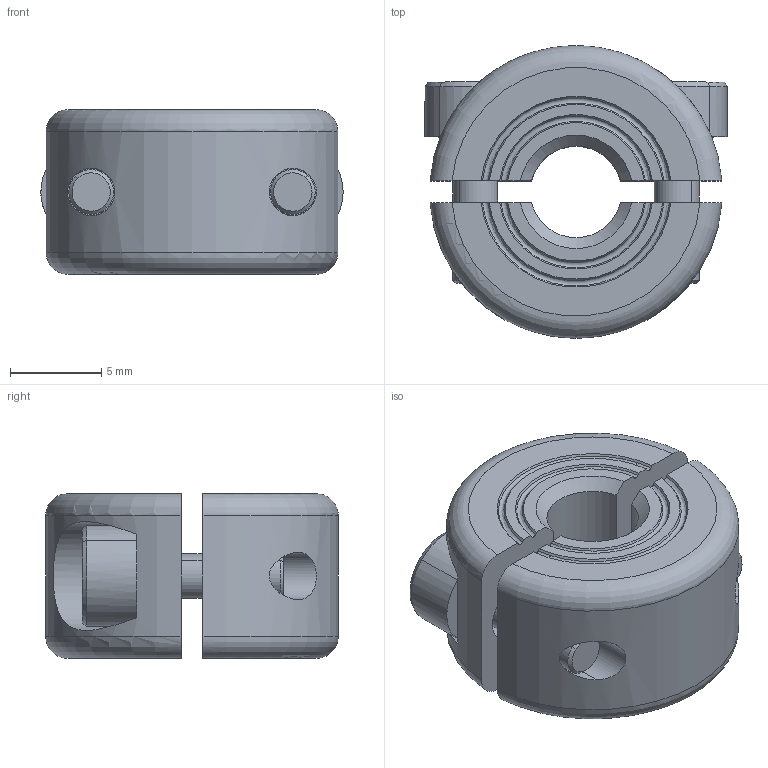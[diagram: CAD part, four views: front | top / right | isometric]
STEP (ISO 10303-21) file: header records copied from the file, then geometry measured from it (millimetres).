
FILE_DESCRIPTION((''),'2;1');
FILE_NAME('MSP-5-X','2016-09-08T',('SYSTEM'),(''),'PRO/ENGINEER BY PARAMETRIC TECHNOLOGY CORPORATION, 2015110','PRO/ENGINEER BY PARAMETRIC TECHNOLOGY CORPORATION, 2015110','');
FILE_SCHEMA(('AUTOMOTIVE_DESIGN { 1 0 10303 214 1 1 1 1 }'));
Length unit declared in the file: inch
Products named in the file (1): MSP-5-X
Bounding box: 16.52 x 16 x 9 mm (x, y, z)
Volume: 1445.8 mm3; surface area: 1462.8 mm2
Topology: 2 solids, 2 shells, 90 faces, 224 edges, 146 vertices
Faces by surface type: plane 36, cylinder 26, cone 20, torus 8
Entity records: 3647 total; most frequent: CARTESIAN_POINT 828, ORIENTED_EDGE 448, DIRECTION 430, EDGE_CURVE 224, AXIS2_PLACEMENT_3D 168, VERTEX_POINT 146, EDGE_LOOP 102, VECTOR 94
